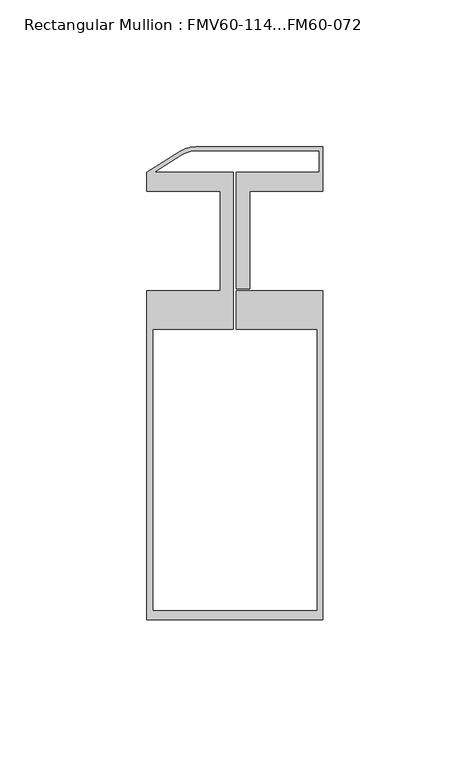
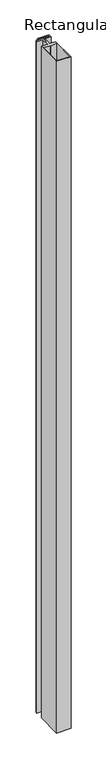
"""IFC4 building model written with IfcOpenShell, lengths in millimetres: member geometry, Rectangular Mullion : FMV60-114...FM60-072."""

import ifcopenshell
import ifcopenshell.guid

model = None  # the IFC model being written
_history = None  # IfcOwnerHistory: only IFC2X3 demands one
_inside = {}  # id of a spatial element -> (the spatial element, [elements in it])
_under = {}  # id of a project, library or spatial element -> (it, [spatial elements below it])
_declared = {}  # id of a project -> (the project, [libraries it declares])
_typed = {}  # id of a type object -> (the type object, [elements of that type])
_made_of = {}  # id of a material, layer set ... -> (it, [elements and type objects made of it])


def new_model(schema):
    """Start an empty IFC model of exactly this schema.

    Asked for "IFC4X3", IfcOpenShell would pick the latest addendum, in which some entities
    have other attributes; the version numbers below select the first issue.
    IFC2X3 requires an IfcOwnerHistory on every rooted entity: one is made here for all.
    """
    global model, _history
    if schema == "IFC4X3":
        model = ifcopenshell.file(schema_version=(4, 3, 0, 0))
    else:
        model = ifcopenshell.file(schema=schema)
    _inside.clear()
    _under.clear()
    _declared.clear()
    _typed.clear()
    _made_of.clear()
    _history = None
    if model.schema == "IFC2X3":
        org = make("IfcOrganization", Name="unknown")
        user = make(
            "IfcPersonAndOrganization",
            ThePerson=make("IfcPerson", FamilyName="unknown"),
            TheOrganization=org,
        )
        app = make(
            "IfcApplication",
            ApplicationDeveloper=org,
            Version="unknown",
            ApplicationFullName="unknown",
            ApplicationIdentifier="unknown",
        )
        _history = make(
            "IfcOwnerHistory",
            OwningUser=user,
            OwningApplication=app,
            ChangeAction="ADDED",
            CreationDate=0,
        )
    return model


def make(cls, **values):
    """One entity of the class cls with the attributes given. An attribute that is None is left unset."""
    return model.create_entity(
        cls, **{name: value for name, value in values.items() if value is not None}
    )


def rooted(cls, **values):
    """An entity with a GlobalId (a new one), such as an element, a storey or a relation."""
    return make(cls, GlobalId=ifcopenshell.guid.new(), OwnerHistory=_history, **values)


def si_unit(unit_type, name, prefix=None):
    """IfcSIUnit, for example si_unit("LENGTHUNIT", "METRE", prefix="MILLI")."""
    return make("IfcSIUnit", UnitType=unit_type, Prefix=prefix, Name=name)


def assignment(units):
    """IfcUnitAssignment: the units of a project."""
    return None if units is None else make("IfcUnitAssignment", Units=units)


def point(xyz):
    """IfcCartesianPoint."""
    return None if xyz is None else make("IfcCartesianPoint", Coordinates=xyz)


def direction(xyz):
    """IfcDirection."""
    return None if xyz is None else make("IfcDirection", DirectionRatios=xyz)


def frame(location, z_axis=None, x_axis=None):
    """IfcAxis2Placement3D, a coordinate frame: its origin and axes. An axis left out is left unset."""
    return make(
        "IfcAxis2Placement3D",
        Location=point(location),
        Axis=direction(z_axis),
        RefDirection=direction(x_axis),
    )


def frame_2d(location, x_axis=None):
    """IfcAxis2Placement2D, a coordinate frame in the plane: its origin and x axis."""
    return make(
        "IfcAxis2Placement2D", Location=point(location), RefDirection=direction(x_axis)
    )


def origin():
    """The frame at (0, 0, 0) with its axes left unset."""
    return frame((0.0, 0.0, 0.0))


def place(relative_to, where):
    """IfcLocalPlacement: puts the frame where relative to a parent placement (None: the world)."""
    return make(
        "IfcLocalPlacement", PlacementRelTo=relative_to, RelativePlacement=where
    )


def context(
    kind, dimensions, precision=None, world=None, true_north=None, identifier=None
):
    """IfcGeometricRepresentationContext, for example the 3D "Model" context."""
    return make(
        "IfcGeometricRepresentationContext",
        ContextIdentifier=identifier,
        ContextType=kind,
        CoordinateSpaceDimension=dimensions,
        Precision=precision,
        WorldCoordinateSystem=world,
        TrueNorth=true_north,
    )


def project(units=None, contexts=None):
    """IfcProject with its units and contexts."""
    return rooted(
        "IfcProject",
        Name="project",
        RepresentationContexts=contexts,
        UnitsInContext=assignment(units),
    )


def spatial(cls, under=None, at=None, **own):
    """A site, building, storey or space (cls), placed at a placement, below another one or the project."""
    s = rooted(cls, ObjectPlacement=at, **own)
    if under is not None:
        _under.setdefault(under.id(), (under, []))[1].append(s)
    return s


def polyline(points):
    """IfcPolyline through the points."""
    return make("IfcPolyline", Points=[point(p) for p in points])


def circle_curve(where, radius):
    """IfcCircle in the frame where."""
    return make("IfcCircle", Position=where, Radius=radius)


def trimmed(basis, trim1, trim2, sense, master):
    """IfcTrimmedCurve: the piece of a basis curve between two trims."""
    return make(
        "IfcTrimmedCurve",
        BasisCurve=basis,
        Trim1=trim1,
        Trim2=trim2,
        SenseAgreement=sense,
        MasterRepresentation=master,
    )


def segment(curve, same_sense, transition):
    """IfcCompositeCurveSegment."""
    return make(
        "IfcCompositeCurveSegment",
        Transition=transition,
        SameSense=same_sense,
        ParentCurve=curve,
    )


def composite_curve(segments, self_intersect=None):
    """IfcCompositeCurve: segments joined end to end."""
    return make("IfcCompositeCurve", Segments=segments, SelfIntersect=self_intersect)


def outline(outer, holes=None, kind="AREA"):
    """IfcArbitraryClosedProfileDef: a profile drawn as a closed curve; with holes, ...WithVoids."""
    if holes is None:
        return make("IfcArbitraryClosedProfileDef", ProfileType=kind, OuterCurve=outer)
    return make(
        "IfcArbitraryProfileDefWithVoids",
        ProfileType=kind,
        OuterCurve=outer,
        InnerCurves=holes,
    )


def extrude(swept, where, along, depth):
    """IfcExtrudedAreaSolid: the profile swept, set in the frame where, extruded along a direction by depth."""
    return make(
        "IfcExtrudedAreaSolid",
        SweptArea=swept,
        Position=where,
        ExtrudedDirection=direction(along),
        Depth=depth,
    )


def shape(context_of_items, identifier, shape_type, items):
    """IfcShapeRepresentation: the items that make up one representation, for example the "Body"."""
    return make(
        "IfcShapeRepresentation",
        ContextOfItems=context_of_items,
        RepresentationIdentifier=identifier,
        RepresentationType=shape_type,
        Items=items,
    )


def source(mapping_origin, context_of_items, identifier, shape_type, items):
    """IfcRepresentationMap: a shape defined once, which mapped items show again and again."""
    return make(
        "IfcRepresentationMap",
        MappingOrigin=mapping_origin,
        MappedRepresentation=shape(context_of_items, identifier, shape_type, items),
    )


def transform(
    local_origin,
    x_axis=None,
    y_axis=None,
    z_axis=None,
    scale=None,
    scale2=None,
    scale3=None,
    uniform=True,
):
    """IfcCartesianTransformationOperator3D, or its non-uniform kind. x_axis, y_axis, z_axis: its Axis1, 2, 3."""
    if uniform:
        return make(
            "IfcCartesianTransformationOperator3D",
            Axis1=direction(x_axis),
            Axis2=direction(y_axis),
            LocalOrigin=point(local_origin),
            Scale=scale,
            Axis3=direction(z_axis),
        )
    return make(
        "IfcCartesianTransformationOperator3DnonUniform",
        Axis1=direction(x_axis),
        Axis2=direction(y_axis),
        LocalOrigin=point(local_origin),
        Scale=scale,
        Axis3=direction(z_axis),
        Scale2=scale2,
        Scale3=scale3,
    )


def mapped(mapping_source, mapping_target):
    """IfcMappedItem: shows the shape of a source again, moved by a transform."""
    return make(
        "IfcMappedItem", MappingSource=mapping_source, MappingTarget=mapping_target
    )


def made_of(thing, what):
    """Note that an element or type object is made of a material, layer set ...; save() writes the relation."""
    if what is not None:
        _made_of.setdefault(what.id(), (what, []))[1].append(thing)
    return thing


def element(
    cls,
    number,
    at=None,
    inside=None,
    cuts=None,
    type_object=None,
    material=None,
    context=None,
    identifier="Body",
    shape_type=None,
    held_by="IfcProductDefinitionShape",
    body=None,
    shapes=None,
    **own,
):
    """One element of the class cls, such as IfcWall. Its Tag is "e" and its number.

    at: its placement. inside: the storey or other place that contains it. cuts: it is an
    opening in that element (IfcRelVoidsElement). A single representation is given by context,
    identifier, shape_type and body (its items); several are given by shapes. held_by: the class
    of the entity that holds the representations. save() writes the other relations.
    """
    e = rooted(cls, Tag="e%d" % number, ObjectPlacement=at, **own)
    if body is not None:
        shapes = [shape(context, identifier, shape_type, body)]
    if shapes is not None:
        e.Representation = make(held_by, Representations=shapes)
    if inside is not None:
        _inside.setdefault(inside.id(), (inside, []))[1].append(e)
    if cuts is not None:
        rooted(
            "IfcRelVoidsElement", RelatingBuildingElement=cuts, RelatedOpeningElement=e
        )
    if type_object is not None:
        _typed.setdefault(type_object.id(), (type_object, []))[1].append(e)
    return made_of(e, material)


def aggregate(whole, parts):
    """IfcRelAggregates: a whole, such as a stair, and the parts it consists of."""
    return rooted("IfcRelAggregates", RelatingObject=whole, RelatedObjects=parts)


def save(model, path):
    """Write the relations noted so far, then the file.

    IfcRelAggregates (storeys below a building ...), IfcRelContainedInSpatialStructure (elements
    in a storey), IfcRelDefinesByType, IfcRelAssociatesMaterial and IfcRelDeclares: one each for
    every whole, place, type object, material and project.
    """
    for whole, parts in _under.values():
        aggregate(whole, parts)
    for where, things in _inside.values():
        rooted(
            "IfcRelContainedInSpatialStructure",
            RelatedElements=things,
            RelatingStructure=where,
        )
    for kind, things in _typed.values():
        rooted("IfcRelDefinesByType", RelatedObjects=things, RelatingType=kind)
    for what, things in _made_of.values():
        rooted("IfcRelAssociatesMaterial", RelatedObjects=things, RelatingMaterial=what)
    for by, libraries in _declared.values():
        rooted("IfcRelDeclares", RelatingContext=by, RelatedDefinitions=libraries)
    model.write(path)


def rectangular_mullion_fmv60_114_fm60_072_02b97602(model_context):
    return source(origin(), model_context, "Body", "SweptSolid", [
        extrude(outline(composite_curve([segment(trimmed(circle_curve(frame_2d((-13.4414405, 22.0038439)), 8.7), [point((-13.4414405, 30.7038439))], [point((-18.0771682, 29.3659108))], True, "CARTESIAN"), True, "CONTINUOUS"), segment(polyline([(-18.0771682, 29.3659108), (-27.4819874, 23.4439081), (-0.5, 23.4439081), (-0.5, -29.9945799), (-28.0, -29.9945799), (-28.0, -125.9990577), (28.0, -125.9990577), (28.0, -29.9945799), (0.5, -29.9945799), (0.5, -17.0), (30.0, -17.0), (30.0, -128.9990577), (-30.0, -128.9990577), (-30.0, -17.0), (-4.9995097, -17.0), (-4.9995097, 17.0), (-30.0, 17.0), (-30.0, 23.3946256), (-18.6292586, 30.5545253)]), True, "CONTINUOUS"), segment(trimmed(circle_curve(frame_2d((-13.300836, 22.0923794)), 10.0), [point((-18.6292586, 30.5545253))], [point((-13.300836, 32.0923794))], False, "CARTESIAN"), True, "CONTINUOUS"), segment(polyline([(-13.300836, 32.0923794), (30.0, 32.0923794), (30.0, 17.0), (5.0, 17.0), (5.0, -16.2), (0.5, -16.2), (0.5, 23.4439081), (28.7000412, 23.4439081), (28.7000412, 30.7038439), (-13.4414405, 30.7038439)]), True, "CONTINUOUS")], self_intersect=False)), frame((0.0, 0.0, -3000.0), z_axis=(0.0, 0.0, 1.0), x_axis=(1.0, 0.0, 0.0)), (0.0, 0.0, 1.0), 3000.0),
    ])


if __name__ == "__main__":
    model = new_model("IFC4")
    model_context = context("Model", 3, world=origin())
    ifc_project = project(units=[si_unit("LENGTHUNIT", "METRE", prefix="MILLI")], contexts=[model_context])
    site = spatial("IfcSite", under=ifc_project)
    building = spatial("IfcBuilding", under=site)
    placement = place(None, origin())
    rectangular_mullion_fmv60_114_fm60_072_shape = rectangular_mullion_fmv60_114_fm60_072_02b97602(model_context)
    element("IfcMember", 1, ObjectType="Rectangular Mullion : FMV60-114...FM60-072", at=placement, inside=building, context=model_context, shape_type="MappedRepresentation", body=[
        mapped(rectangular_mullion_fmv60_114_fm60_072_shape, transform((0.0, 0.0, 0.0), x_axis=(1.0, 0.0, 0.0), y_axis=(0.0, 1.0, 0.0), z_axis=(0.0, 0.0, 1.0))),
    ])
    save(model, "model.ifc")
